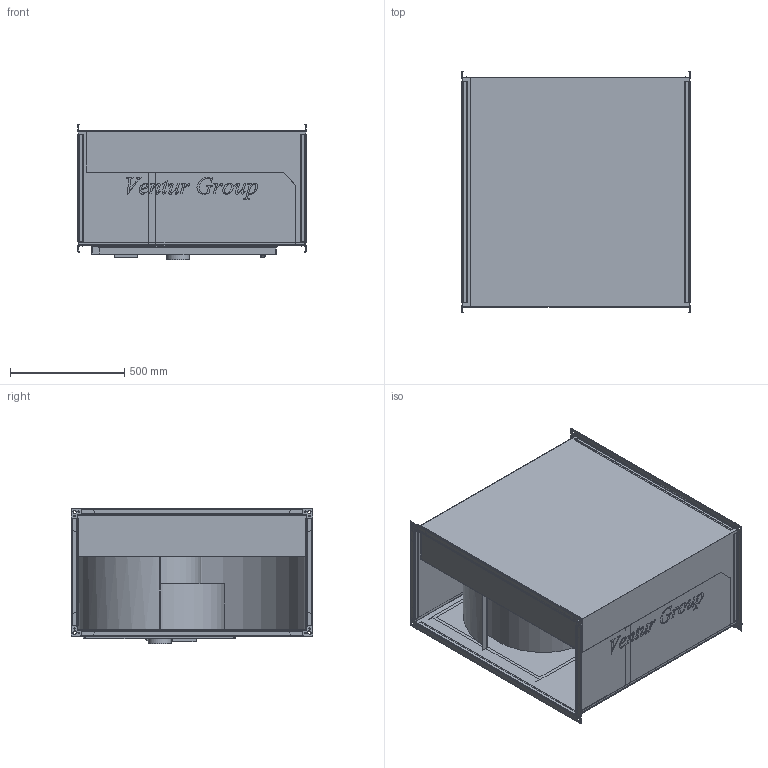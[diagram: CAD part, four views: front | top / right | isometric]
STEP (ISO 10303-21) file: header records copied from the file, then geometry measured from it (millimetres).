
FILE_DESCRIPTION(/* description */ (''),/* implementation_level */ '2;1');
FILE_NAME(/* name */ 'C:\Users\M.Janczarek\Documents\Modele uproszczone\IBF\IBF6_560S SN 41010260-01\IBF6_560S SN 41010260-01\IBF6_560S SN 41010260-01.stp',/* time_stamp */ '2018-03-27T10:10:05+02:00',/* author */ ('M.Janczarek'),/* organization */ (''),/* preprocessor_version */ 'ST-DEVELOPER v16.5',/* originating_system */ 'Autodesk Inventor 2017',/* authorisation */ '');
FILE_SCHEMA (('AUTOMOTIVE_DESIGN { 1 0 10303 214 3 1 1 }'));
Length unit declared in the file: millimetre
Products named in the file (1): IBF6_560S SN 41010260-01
Bounding box: 1000 x 1059 x 591.7 mm (x, y, z)
Volume: 73001079 mm3; surface area: 12595703.1 mm2
Topology: 1 solids, 2 shells, 1191 faces, 3557 edges, 2336 vertices
Faces by surface type: plane 659, bspline 325, cylinder 207
Full cylindrical faces by diameter (mm): 6.8 x16, 100 x1, 360 x1, 566 x1
Entity records: 42582 total; most frequent: CARTESIAN_POINT 11464, ORIENTED_EDGE 7076, DIRECTION 5080, EDGE_CURVE 3538, LINE 2478, VECTOR 2478, VERTEX_POINT 2336, EDGE_LOOP 1316
